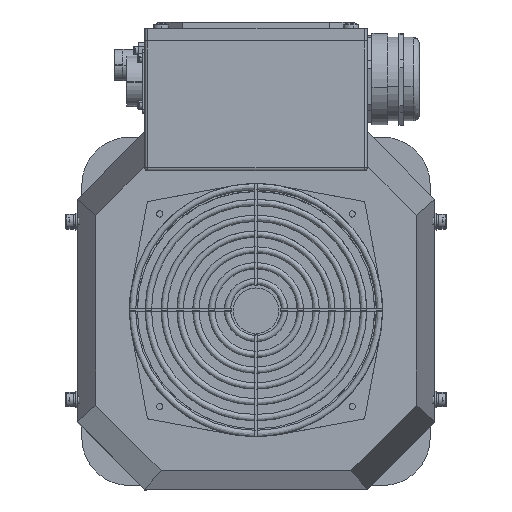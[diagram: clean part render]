
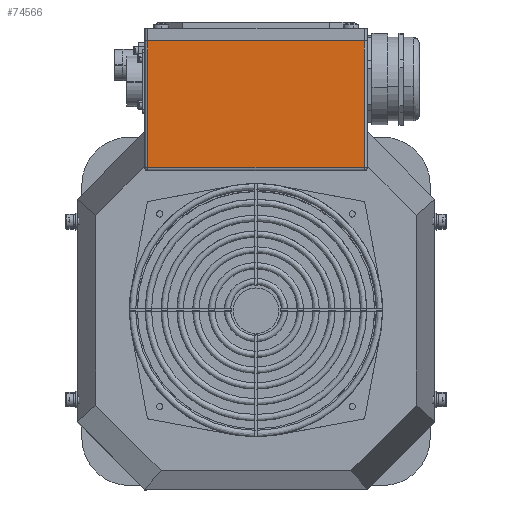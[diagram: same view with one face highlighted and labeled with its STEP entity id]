
A CAD part, top view. The second image highlights one B-rep face of the part: STEP entity #74566.
In plain terms, the highlighted planar face has unit normal (0, 0, 1).
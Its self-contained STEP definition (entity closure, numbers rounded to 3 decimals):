
#1374 = LINE ( 'NONE', #19064, #66149 ) ;
#3391 = ORIENTED_EDGE ( 'NONE', *, *, #5636, .F. ) ;
#5636 = EDGE_CURVE ( 'NONE', #6132, #36159, #13064, .T. ) ;
#6132 = VERTEX_POINT ( 'NONE', #65964 ) ;
#9381 = CARTESIAN_POINT ( 'NONE',  ( -68.25, 90., 475. ) ) ;
#10085 = ORIENTED_EDGE ( 'NONE', *, *, #70344, .T. ) ;
#12546 = DIRECTION ( 'NONE',  ( 1., 0., 0. ) ) ;
#13064 = LINE ( 'NONE', #61733, #69013 ) ;
#13784 = ORIENTED_EDGE ( 'NONE', *, *, #40840, .F. ) ;
#14680 = VECTOR ( 'NONE', #22308, 1000. ) ;
#18270 = PLANE ( 'NONE',  #45058 ) ;
#19064 = CARTESIAN_POINT ( 'NONE',  ( -68.25, 130., 475. ) ) ;
#19323 = DIRECTION ( 'NONE',  ( 0., -1., 0. ) ) ;
#19614 = ORIENTED_EDGE ( 'NONE', *, *, #21486, .T. ) ;
#20986 = FACE_OUTER_BOUND ( 'NONE', #34727, .T. ) ;
#21486 = EDGE_CURVE ( 'NONE', #32782, #36159, #1374, .T. ) ;
#22308 = DIRECTION ( 'NONE',  ( 0., 1., 0. ) ) ;
#24084 = DIRECTION ( 'NONE',  ( -1., 0., 0. ) ) ;
#31173 = CARTESIAN_POINT ( 'NONE',  ( 68.25, 170., 475. ) ) ;
#32782 = VERTEX_POINT ( 'NONE', #75090 ) ;
#34727 = EDGE_LOOP ( 'NONE', ( #3391, #10085, #13784, #19614 ) ) ;
#36159 = VERTEX_POINT ( 'NONE', #9381 ) ;
#40840 = EDGE_CURVE ( 'NONE', #32782, #69988, #64765, .T. ) ;
#42492 = CARTESIAN_POINT ( 'NONE',  ( 0., 170., 475. ) ) ;
#45058 = AXIS2_PLACEMENT_3D ( 'NONE', #62454, #80860, #12546 ) ;
#50938 = LINE ( 'NONE', #71753, #14680 ) ;
#53976 = DIRECTION ( 'NONE',  ( 1., 0., 0. ) ) ;
#61733 = CARTESIAN_POINT ( 'NONE',  ( 0., 90., 475. ) ) ;
#62454 = CARTESIAN_POINT ( 'NONE',  ( -68.25, 170., 475. ) ) ;
#64765 = LINE ( 'NONE', #42492, #70649 ) ;
#65964 = CARTESIAN_POINT ( 'NONE',  ( 68.25, 90., 475. ) ) ;
#66149 = VECTOR ( 'NONE', #19323, 1000. ) ;
#69013 = VECTOR ( 'NONE', #24084, 1000. ) ;
#69988 = VERTEX_POINT ( 'NONE', #31173 ) ;
#70344 = EDGE_CURVE ( 'NONE', #6132, #69988, #50938, .T. ) ;
#70649 = VECTOR ( 'NONE', #53976, 1000. ) ;
#71753 = CARTESIAN_POINT ( 'NONE',  ( 68.25, 130., 475. ) ) ;
#74566 = ADVANCED_FACE ( 'NONE', ( #20986 ), #18270, .F. ) ;
#75090 = CARTESIAN_POINT ( 'NONE',  ( -68.25, 170., 475. ) ) ;
#80860 = DIRECTION ( 'NONE',  ( 0., 0., -1. ) ) ;
